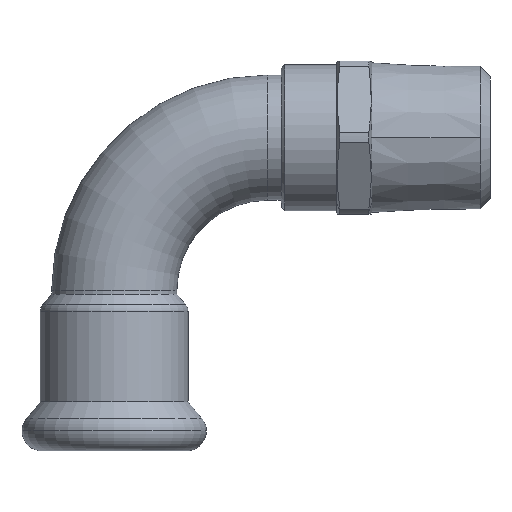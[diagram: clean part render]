
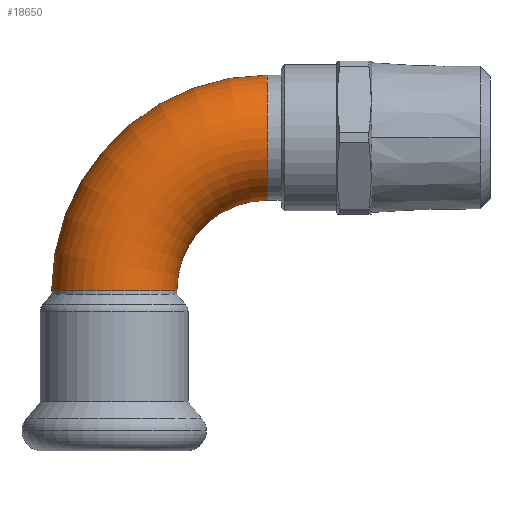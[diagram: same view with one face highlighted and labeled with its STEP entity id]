
A CAD part, top view. The second image highlights one B-rep face of the part: STEP entity #18650.
In plain terms, the highlighted toroidal (fillet/blend) face has major radius 22 mm and minor radius 9 mm.
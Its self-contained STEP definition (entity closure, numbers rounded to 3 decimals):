
#9870=CARTESIAN_POINT('',(-83.571,30.24,
0.));
#9880=VERTEX_POINT('',#9870);
#9960=CARTESIAN_POINT('',(-83.571,12.24,
0.));
#9970=VERTEX_POINT('',#9960);
#14030=CARTESIAN_POINT('',(-96.571,-0.76,
0.));
#14040=VERTEX_POINT('',#14030);
#14090=CARTESIAN_POINT('',(-105.571,-0.76,0.));
#14100=DIRECTION('',(0.,-1.,0.));
#14110=DIRECTION('',(1.,0.,0.));
#14120=AXIS2_PLACEMENT_3D('',#14090,#14100,#14110);
#14130=CIRCLE('',#14120,9.);
#14140=CARTESIAN_POINT('',(-114.571,-0.76,
0.));
#14150=VERTEX_POINT('',#14140);
#14360=CARTESIAN_POINT('',(-83.571,-0.76,
0.));
#14370=DIRECTION('',(0.,0.,1.));
#14380=DIRECTION('',(0.,1.,0.));
#14390=AXIS2_PLACEMENT_3D('',#14360,#14370,#14380);
#14400=TOROIDAL_SURFACE('',#14390,22.,9.);
#14410=CARTESIAN_POINT('',(-83.571,-0.76,
0.));
#14420=DIRECTION('',(0.,0.,1.));
#14430=DIRECTION('',(0.,1.,0.));
#14440=AXIS2_PLACEMENT_3D('',#14410,#14420,#14430);
#14450=CIRCLE('',#14440,13.);
#14460=EDGE_CURVE('',#9970,#14040,#14450,.T.);
#14490=CARTESIAN_POINT('',(-83.571,-0.76,
0.));
#14500=DIRECTION('',(0.,0.,1.));
#14510=DIRECTION('',(0.,1.,0.));
#14520=AXIS2_PLACEMENT_3D('',#14490,#14500,#14510);
#14530=CIRCLE('',#14520,31.);
#14540=EDGE_CURVE('',#9880,#14150,#14530,.T.);
#18520=EDGE_CURVE('',#14040,#14150,#14130,.T.);
#18530=ORIENTED_EDGE('',*,*,#18520,.F.);
#18540=ORIENTED_EDGE('',*,*,#14540,.T.);
#18550=CARTESIAN_POINT('',(-83.571,21.24,
0.));
#18560=DIRECTION('',(-1.,0.,0.));
#18570=DIRECTION('',(0.,-1.,0.));
#18580=AXIS2_PLACEMENT_3D('',#18550,#18560,#18570);
#18590=CIRCLE('',#18580,9.);
#18600=EDGE_CURVE('',#9970,#9880,#18590,.T.);
#18610=ORIENTED_EDGE('',*,*,#18600,.T.);
#18620=ORIENTED_EDGE('',*,*,#14460,.F.);
#18630=EDGE_LOOP('',(#18620,#18610,#18540,#18530));
#18640=FACE_OUTER_BOUND('',#18630,.T.);
#18650=ADVANCED_FACE('',(#18640),#14400,.T.);
